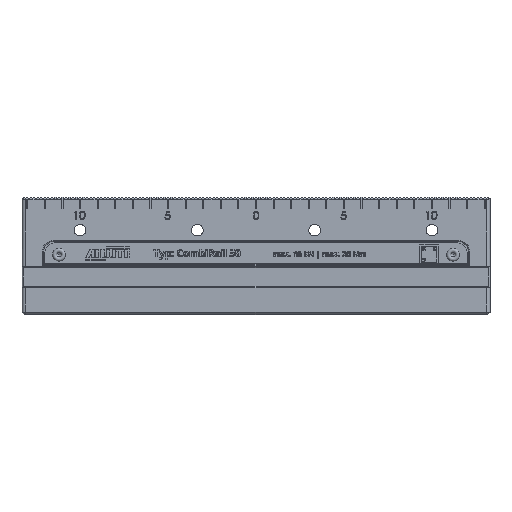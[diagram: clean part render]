
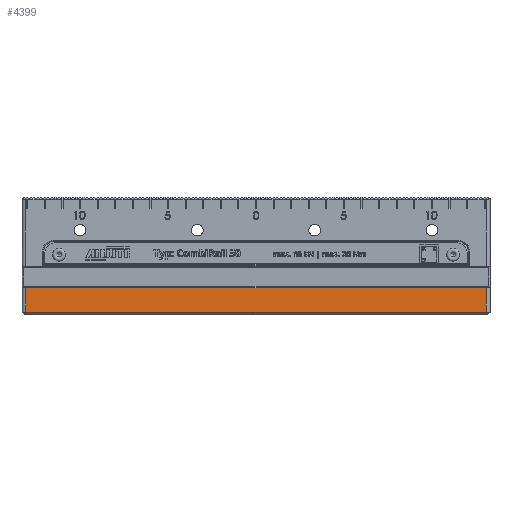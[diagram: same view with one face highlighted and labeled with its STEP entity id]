
A CAD part, top view. The second image highlights one B-rep face of the part: STEP entity #4399.
In plain terms, the highlighted planar face has unit normal (0, 0, 1).
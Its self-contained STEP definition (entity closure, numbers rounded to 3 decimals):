
#2866 = ORIENTED_EDGE ( 'NONE', *, *, #23559, .T. ) ;
#4399 = ADVANCED_FACE ( 'NONE', ( #16102 ), #80904, .F. ) ;
#8007 = CARTESIAN_POINT ( 'NONE',  ( 98.25, -38., 25. ) ) ;
#10704 = VECTOR ( 'NONE', #71973, 1000. ) ;
#10720 = CARTESIAN_POINT ( 'NONE',  ( 98.25, -49., 25. ) ) ;
#11446 = CARTESIAN_POINT ( 'NONE',  ( -98.25, -38.5, 25. ) ) ;
#16102 = FACE_OUTER_BOUND ( 'NONE', #28346, .T. ) ;
#16536 = CARTESIAN_POINT ( 'NONE',  ( 99.75, -49., 25. ) ) ;
#18730 = CARTESIAN_POINT ( 'NONE',  ( -98.25, -38., 25. ) ) ;
#23559 = EDGE_CURVE ( 'NONE', #41012, #53712, #48577, .T. ) ;
#28346 = EDGE_LOOP ( 'NONE', ( #48521, #2866, #36239, #71634 ) ) ;
#29665 = DIRECTION ( 'NONE',  ( 1., 0., 0. ) ) ;
#36239 = ORIENTED_EDGE ( 'NONE', *, *, #64474, .T. ) ;
#37269 = LINE ( 'NONE', #16536, #78985 ) ;
#37678 = VECTOR ( 'NONE', #83543, 1000. ) ;
#41012 = VERTEX_POINT ( 'NONE', #54707 ) ;
#41378 = CARTESIAN_POINT ( 'NONE',  ( 99.75, -38.5, 25. ) ) ;
#41515 = DIRECTION ( 'NONE',  ( 0., 1., 0. ) ) ;
#45002 = VERTEX_POINT ( 'NONE', #10720 ) ;
#48521 = ORIENTED_EDGE ( 'NONE', *, *, #64985, .T. ) ;
#48577 = LINE ( 'NONE', #41378, #65876 ) ;
#48902 = EDGE_CURVE ( 'NONE', #77472, #45002, #37269, .T. ) ;
#50107 = CARTESIAN_POINT ( 'NONE',  ( -98.25, -49., 25. ) ) ;
#53712 = VERTEX_POINT ( 'NONE', #11446 ) ;
#54239 = DIRECTION ( 'NONE',  ( 0., 0., -1. ) ) ;
#54707 = CARTESIAN_POINT ( 'NONE',  ( 98.25, -38.5, 25. ) ) ;
#59282 = LINE ( 'NONE', #8007, #10704 ) ;
#60876 = DIRECTION ( 'NONE',  ( -1., 0., 0. ) ) ;
#64474 = EDGE_CURVE ( 'NONE', #53712, #77472, #75533, .T. ) ;
#64614 = AXIS2_PLACEMENT_3D ( 'NONE', #80075, #54239, #41515 ) ;
#64985 = EDGE_CURVE ( 'NONE', #45002, #41012, #59282, .T. ) ;
#65876 = VECTOR ( 'NONE', #60876, 1000. ) ;
#71634 = ORIENTED_EDGE ( 'NONE', *, *, #48902, .T. ) ;
#71973 = DIRECTION ( 'NONE',  ( 0., 1., 0. ) ) ;
#75533 = LINE ( 'NONE', #18730, #37678 ) ;
#77472 = VERTEX_POINT ( 'NONE', #50107 ) ;
#78985 = VECTOR ( 'NONE', #29665, 1000. ) ;
#80075 = CARTESIAN_POINT ( 'NONE',  ( 99.75, -38., 25. ) ) ;
#80904 = PLANE ( 'NONE',  #64614 ) ;
#83543 = DIRECTION ( 'NONE',  ( 0., -1., 0. ) ) ;
